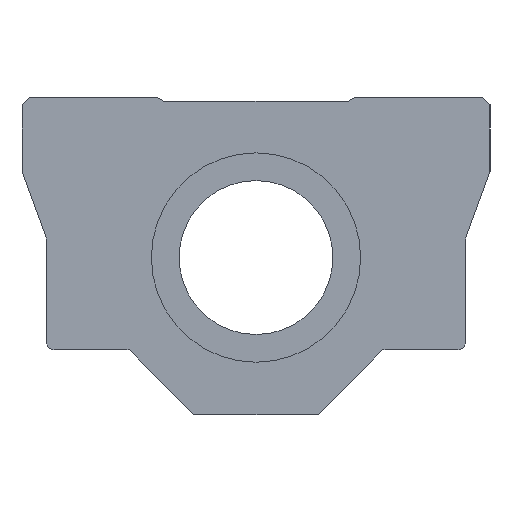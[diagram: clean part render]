
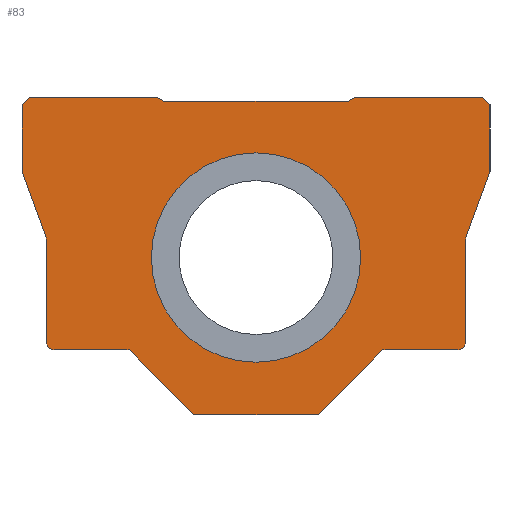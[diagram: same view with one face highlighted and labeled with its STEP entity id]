
A CAD part, left-side view. The second image highlights one B-rep face of the part: STEP entity #83.
In plain terms, the highlighted planar face has unit normal (-1, 0, 0).
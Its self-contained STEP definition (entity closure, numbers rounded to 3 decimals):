
#83 = ADVANCED_FACE( '', ( #193, #194 ), #195, .F. );
#193 = FACE_BOUND( '', #344, .T. );
#194 = FACE_OUTER_BOUND( '', #345, .T. );
#195 = PLANE( '', #346 );
#344 = EDGE_LOOP( '', ( #530 ) );
#345 = EDGE_LOOP( '', ( #531, #532, #533, #534, #535, #536, #537, #538, #539, #540, #541, #542, #543, #544, #545, #546, #547, #548, #549, #550 ) );
#346 = AXIS2_PLACEMENT_3D( '', #551, #552, #553 );
#530 = ORIENTED_EDGE( '', *, *, #816, .T. );
#531 = ORIENTED_EDGE( '', *, *, #780, .F. );
#532 = ORIENTED_EDGE( '', *, *, #777, .F. );
#533 = ORIENTED_EDGE( '', *, *, #817, .F. );
#534 = ORIENTED_EDGE( '', *, *, #818, .F. );
#535 = ORIENTED_EDGE( '', *, *, #819, .F. );
#536 = ORIENTED_EDGE( '', *, *, #820, .F. );
#537 = ORIENTED_EDGE( '', *, *, #821, .F. );
#538 = ORIENTED_EDGE( '', *, *, #822, .F. );
#539 = ORIENTED_EDGE( '', *, *, #793, .F. );
#540 = ORIENTED_EDGE( '', *, *, #799, .F. );
#541 = ORIENTED_EDGE( '', *, *, #823, .T. );
#542 = ORIENTED_EDGE( '', *, *, #824, .T. );
#543 = ORIENTED_EDGE( '', *, *, #825, .T. );
#544 = ORIENTED_EDGE( '', *, *, #826, .F. );
#545 = ORIENTED_EDGE( '', *, *, #827, .F. );
#546 = ORIENTED_EDGE( '', *, *, #813, .F. );
#547 = ORIENTED_EDGE( '', *, *, #828, .F. );
#548 = ORIENTED_EDGE( '', *, *, #804, .F. );
#549 = ORIENTED_EDGE( '', *, *, #809, .F. );
#550 = ORIENTED_EDGE( '', *, *, #829, .F. );
#551 = CARTESIAN_POINT( '', ( 0., 0., 0. ) );
#552 = DIRECTION( '', ( 1., 0., 0. ) );
#553 = DIRECTION( '', ( 0., 1., 0. ) );
#777 = EDGE_CURVE( '', #900, #895, #902, .T. );
#780 = EDGE_CURVE( '', #895, #906, #907, .T. );
#793 = EDGE_CURVE( '', #926, #928, #929, .T. );
#799 = EDGE_CURVE( '', #937, #926, #939, .T. );
#804 = EDGE_CURVE( '', #945, #947, #948, .T. );
#809 = EDGE_CURVE( '', #953, #945, #955, .T. );
#813 = EDGE_CURVE( '', #960, #962, #963, .T. );
#816 = EDGE_CURVE( '', #966, #966, #967, .T. );
#817 = EDGE_CURVE( '', #968, #900, #969, .T. );
#818 = EDGE_CURVE( '', #970, #968, #971, .T. );
#819 = EDGE_CURVE( '', #972, #970, #973, .T. );
#820 = EDGE_CURVE( '', #974, #972, #975, .T. );
#821 = EDGE_CURVE( '', #976, #974, #977, .T. );
#822 = EDGE_CURVE( '', #928, #976, #978, .T. );
#823 = EDGE_CURVE( '', #937, #979, #980, .T. );
#824 = EDGE_CURVE( '', #979, #981, #982, .T. );
#825 = EDGE_CURVE( '', #981, #983, #984, .T. );
#826 = EDGE_CURVE( '', #985, #983, #986, .T. );
#827 = EDGE_CURVE( '', #962, #985, #987, .T. );
#828 = EDGE_CURVE( '', #947, #960, #988, .T. );
#829 = EDGE_CURVE( '', #906, #953, #989, .T. );
#895 = VERTEX_POINT( '', #1078 );
#900 = VERTEX_POINT( '', #1085 );
#902 = LINE( '', #1088, #1089 );
#906 = VERTEX_POINT( '', #1094 );
#907 = LINE( '', #1095, #1096 );
#926 = VERTEX_POINT( '', #1117 );
#928 = VERTEX_POINT( '', #1120 );
#929 = LINE( '', #1121, #1122 );
#937 = VERTEX_POINT( '', #1131 );
#939 = LINE( '', #1134, #1135 );
#945 = VERTEX_POINT( '', #1143 );
#947 = VERTEX_POINT( '', #1146 );
#948 = LINE( '', #1147, #1148 );
#953 = VERTEX_POINT( '', #1154 );
#955 = CIRCLE( '', #1157, 1.2 );
#960 = VERTEX_POINT( '', #1163 );
#962 = VERTEX_POINT( '', #1166 );
#963 = LINE( '', #1167, #1168 );
#966 = VERTEX_POINT( '', #1172 );
#967 = CIRCLE( '', #1173, 17. );
#968 = VERTEX_POINT( '', #1174 );
#969 = LINE( '', #1175, #1176 );
#970 = VERTEX_POINT( '', #1177 );
#971 = LINE( '', #1178, #1179 );
#972 = VERTEX_POINT( '', #1180 );
#973 = CIRCLE( '', #1181, 1.2 );
#974 = VERTEX_POINT( '', #1182 );
#975 = LINE( '', #1183, #1184 );
#976 = VERTEX_POINT( '', #1185 );
#977 = LINE( '', #1186, #1187 );
#978 = LINE( '', #1188, #1189 );
#979 = VERTEX_POINT( '', #1190 );
#980 = LINE( '', #1191, #1192 );
#981 = VERTEX_POINT( '', #1193 );
#982 = LINE( '', #1194, #1195 );
#983 = VERTEX_POINT( '', #1196 );
#984 = LINE( '', #1197, #1198 );
#985 = VERTEX_POINT( '', #1199 );
#986 = LINE( '', #1200, #1201 );
#987 = LINE( '', #1202, #1203 );
#988 = LINE( '', #1204, #1205 );
#989 = LINE( '', #1206, #1207 );
#1078 = CARTESIAN_POINT( '', ( 0., 10.122, -25.5 ) );
#1085 = CARTESIAN_POINT( '', ( 0., -10.122, -25.5 ) );
#1088 = CARTESIAN_POINT( '', ( 0., -10.122, -25.5 ) );
#1089 = VECTOR( '', #1319, 1000. );
#1094 = CARTESIAN_POINT( '', ( 0., 20.622, -15. ) );
#1095 = CARTESIAN_POINT( '', ( 0., 17.811, -17.811 ) );
#1096 = VECTOR( '', #1321, 1000. );
#1117 = CARTESIAN_POINT( '', ( 0., -36.8, 26. ) );
#1120 = CARTESIAN_POINT( '', ( 0., -38., 24.8 ) );
#1121 = CARTESIAN_POINT( '', ( 0., -36.8, 26. ) );
#1122 = VECTOR( '', #1340, 1000. );
#1131 = CARTESIAN_POINT( '', ( 0., -16., 26. ) );
#1134 = CARTESIAN_POINT( '', ( 0., 36.8, 26. ) );
#1135 = VECTOR( '', #1349, 1000. );
#1143 = CARTESIAN_POINT( '', ( 0., 34., -13.8 ) );
#1146 = CARTESIAN_POINT( '', ( 0., 34., 3.01 ) );
#1147 = CARTESIAN_POINT( '', ( 0., 34., -13.8 ) );
#1148 = VECTOR( '', #1353, 1000. );
#1154 = CARTESIAN_POINT( '', ( 0., 32.8, -15. ) );
#1157 = AXIS2_PLACEMENT_3D( '', #1359, #1360, #1361 );
#1163 = CARTESIAN_POINT( '', ( 0., 38., 14. ) );
#1166 = CARTESIAN_POINT( '', ( 0., 38., 24.8 ) );
#1167 = CARTESIAN_POINT( '', ( 0., 38., 14. ) );
#1168 = VECTOR( '', #1364, 1000. );
#1172 = CARTESIAN_POINT( '', ( 0., 17., 0. ) );
#1173 = AXIS2_PLACEMENT_3D( '', #1366, #1367, #1368 );
#1174 = CARTESIAN_POINT( '', ( 0., -20.622, -15. ) );
#1175 = CARTESIAN_POINT( '', ( 0., -17.811, -17.811 ) );
#1176 = VECTOR( '', #1369, 1000. );
#1177 = CARTESIAN_POINT( '', ( 0., -32.8, -15. ) );
#1178 = CARTESIAN_POINT( '', ( 0., -32.8, -15. ) );
#1179 = VECTOR( '', #1370, 1000. );
#1180 = CARTESIAN_POINT( '', ( 0., -34., -13.8 ) );
#1181 = AXIS2_PLACEMENT_3D( '', #1371, #1372, #1373 );
#1182 = CARTESIAN_POINT( '', ( 0., -34., 3.01 ) );
#1183 = CARTESIAN_POINT( '', ( 0., -34., 3.01 ) );
#1184 = VECTOR( '', #1374, 1000. );
#1185 = CARTESIAN_POINT( '', ( 0., -38., 14. ) );
#1186 = CARTESIAN_POINT( '', ( 0., -38., 14. ) );
#1187 = VECTOR( '', #1375, 1000. );
#1188 = CARTESIAN_POINT( '', ( 0., -38., 24.8 ) );
#1189 = VECTOR( '', #1376, 1000. );
#1190 = CARTESIAN_POINT( '', ( 0., -15., 25.4 ) );
#1191 = CARTESIAN_POINT( '', ( 0., -3.882, 18.729 ) );
#1192 = VECTOR( '', #1377, 1000. );
#1193 = CARTESIAN_POINT( '', ( 0., 15., 25.4 ) );
#1194 = CARTESIAN_POINT( '', ( 0., 7.5, 25.4 ) );
#1195 = VECTOR( '', #1378, 1000. );
#1196 = CARTESIAN_POINT( '', ( 0., 16., 26. ) );
#1197 = CARTESIAN_POINT( '', ( 0., 4.382, 19.029 ) );
#1198 = VECTOR( '', #1379, 1000. );
#1199 = CARTESIAN_POINT( '', ( 0., 36.8, 26. ) );
#1200 = CARTESIAN_POINT( '', ( 0., 36.8, 26. ) );
#1201 = VECTOR( '', #1380, 1000. );
#1202 = CARTESIAN_POINT( '', ( 0., 38., 24.8 ) );
#1203 = VECTOR( '', #1381, 1000. );
#1204 = CARTESIAN_POINT( '', ( 0., 34., 3.01 ) );
#1205 = VECTOR( '', #1382, 1000. );
#1206 = CARTESIAN_POINT( '', ( 0., 20.622, -15. ) );
#1207 = VECTOR( '', #1383, 1000. );
#1319 = DIRECTION( '', ( 0., 1., 0. ) );
#1321 = DIRECTION( '', ( 0., 0.707, 0.707 ) );
#1340 = DIRECTION( '', ( 0., -0.707, -0.707 ) );
#1349 = DIRECTION( '', ( 0., -1., 0. ) );
#1353 = DIRECTION( '', ( 0., 0., 1. ) );
#1359 = CARTESIAN_POINT( '', ( 0., 32.8, -13.8 ) );
#1360 = DIRECTION( '', ( 1., 0., 0. ) );
#1361 = DIRECTION( '', ( 0., 0., -1. ) );
#1364 = DIRECTION( '', ( 0., 0., 1. ) );
#1366 = CARTESIAN_POINT( '', ( 0., 0., 0. ) );
#1367 = DIRECTION( '', ( 1., 0., 0. ) );
#1368 = DIRECTION( '', ( 0., 1., 0. ) );
#1369 = DIRECTION( '', ( 0., 0.707, -0.707 ) );
#1370 = DIRECTION( '', ( 0., 1., 0. ) );
#1371 = CARTESIAN_POINT( '', ( 0., -32.8, -13.8 ) );
#1372 = DIRECTION( '', ( 1., 0., 0. ) );
#1373 = DIRECTION( '', ( 0., -1., 0. ) );
#1374 = DIRECTION( '', ( 0., 0., -1. ) );
#1375 = DIRECTION( '', ( 0., 0.342, -0.94 ) );
#1376 = DIRECTION( '', ( 0., 0., -1. ) );
#1377 = DIRECTION( '', ( 0., 0.857, -0.514 ) );
#1378 = DIRECTION( '', ( 0., 1., 0. ) );
#1379 = DIRECTION( '', ( 0., 0.857, 0.514 ) );
#1380 = DIRECTION( '', ( 0., -1., 0. ) );
#1381 = DIRECTION( '', ( 0., -0.707, 0.707 ) );
#1382 = DIRECTION( '', ( 0., 0.342, 0.94 ) );
#1383 = DIRECTION( '', ( 0., 1., 0. ) );
